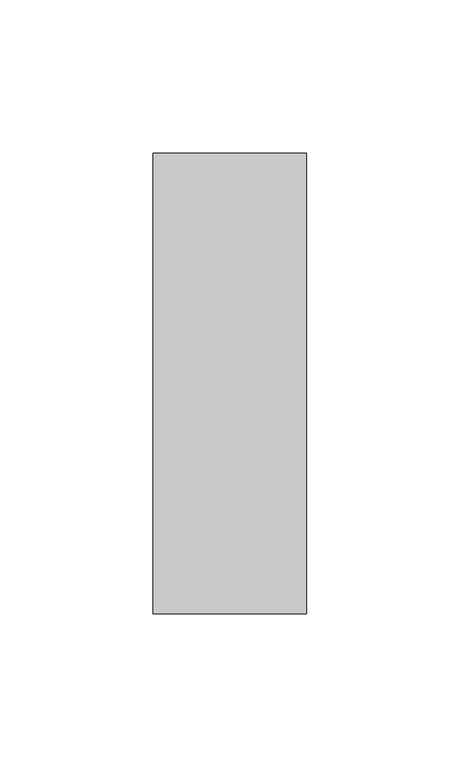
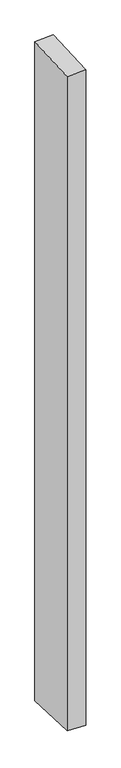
"""IFC4 building model written with IfcOpenShell, lengths in millimetres: member geometry, Прямоугольный импост : 50 x 150 мм."""

from ifc_helpers import new_model, si_unit, origin, place, context, project, spatial, faceted_brep, source, transform, mapped, element, save


def member_8263a8e9(model_context):
    return source(origin(), model_context, "Body", "Brep", [
        faceted_brep([(-25.0, 75.0, 3.5464115), (25.0, 75.0, 5.111838), (25.0, 75.0, -1875.4218155), (-25.0, 75.0, -1874.196786), (-25.0, -75.0, -5.111838), (-25.0, -75.0, -1868.8553945), (25.0, -75.0, -3.5464115), (25.0, -75.0, -1870.0804241)], [[[0, 1, 2, 3]], [[4, 0, 3, 5]], [[6, 4, 5, 7]], [[1, 6, 7, 2]], [[1, 0, 4, 6]], [[2, 7, 5, 3]]]),
    ])


if __name__ == "__main__":
    model = new_model("IFC4")
    model_context = context("Model", 3, world=origin())
    ifc_project = project(units=[si_unit("LENGTHUNIT", "METRE", prefix="MILLI")], contexts=[model_context])
    site = spatial("IfcSite", under=ifc_project)
    building = spatial("IfcBuilding", under=site)
    placement = place(None, origin())
    member_shape = member_8263a8e9(model_context)
    element("IfcMember", 1, ObjectType="Прямоугольный импост : 50 x 150 мм", at=placement, inside=building, context=model_context, shape_type="MappedRepresentation", body=[
        mapped(member_shape, transform((0.0, 0.0, 0.0), x_axis=(1.0, 0.0, 0.0), y_axis=(0.0, 1.0, 0.0), z_axis=(0.0, 0.0, 1.0))),
    ])
    save(model, "model.ifc")
